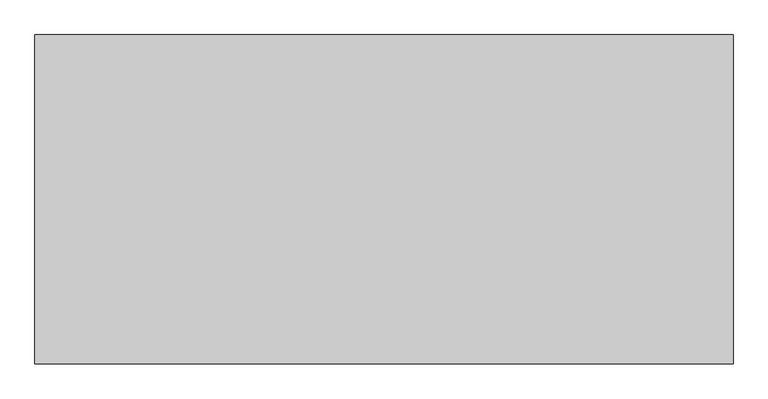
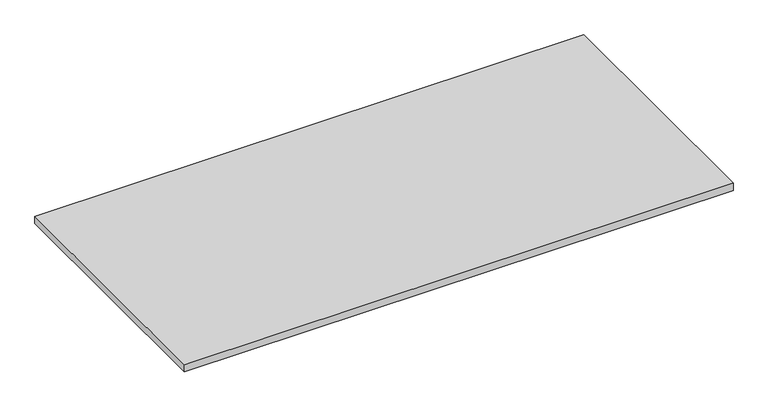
"""IFC4 building model written with IfcOpenShell, lengths in millimetres: proxy geometry, ELEVATE^ADMIN_42x89x1.25-CENTER DIVIDER WALL."""

from ifc_helpers import new_model, si_unit, origin, origin_with_axes, place, context, project, spatial, polyline, outline, extrude, source, transform, mapped, element, save


def generic_models_7a09384d(model_context):
    return source(origin(), model_context, "Body", "SweptSolid", [
        extrude(outline(polyline([(2260.6, 1066.8), (2260.6, 0.0), (0.0, 0.0), (0.0, 1066.8), (2260.6, 1066.8)])), origin_with_axes(), (0.0, 0.0, 1.0), 31.75),
    ])


if __name__ == "__main__":
    model = new_model("IFC4")
    model_context = context("Model", 3, world=origin())
    ifc_project = project(units=[si_unit("LENGTHUNIT", "METRE", prefix="MILLI")], contexts=[model_context])
    site = spatial("IfcSite", under=ifc_project)
    building = spatial("IfcBuilding", under=site)
    placement = place(None, origin())
    generic_models_shape = generic_models_7a09384d(model_context)
    element("IfcBuildingElementProxy", 1, Name="ELEVATE^ADMIN_42x89x1.25-CENTER DIVIDER WALL", ObjectType="ELEVATE^ADMIN_42x89x1.25-CENTER DIVIDER WALL", at=placement, inside=building, context=model_context, shape_type="MappedRepresentation", body=[
        mapped(generic_models_shape, transform((0.0, 0.0, 0.0), x_axis=(1.0, 0.0, 0.0), y_axis=(0.0, 1.0, 0.0), z_axis=(0.0, 0.0, 1.0))),
    ])
    save(model, "model.ifc")
